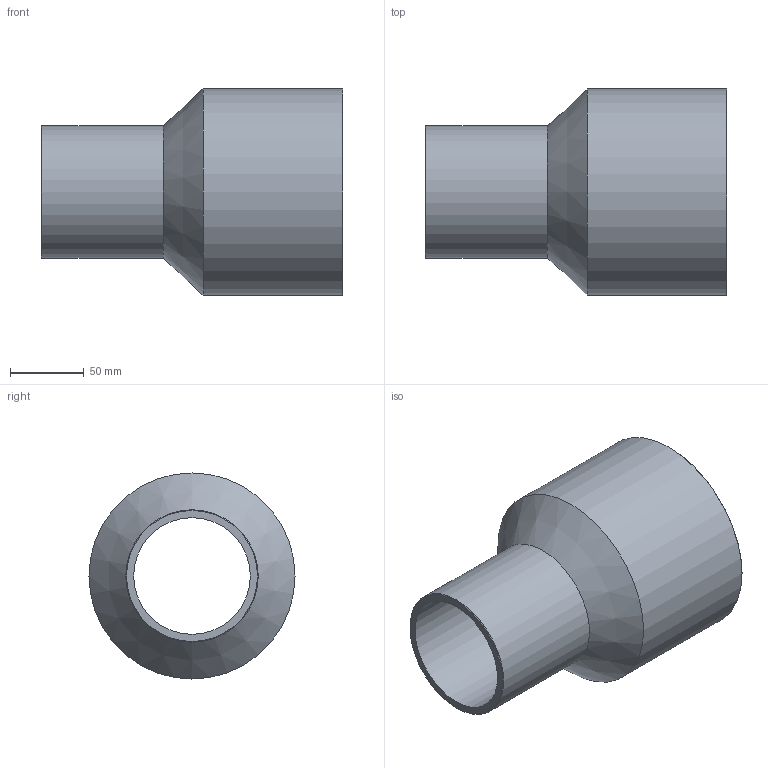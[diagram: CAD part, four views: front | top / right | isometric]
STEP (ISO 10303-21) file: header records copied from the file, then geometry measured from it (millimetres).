
FILE_DESCRIPTION(/* description */ ('Unknown'),/* implementation_level */ '2;1');
FILE_NAME(/* name */ 'RP140090B',/* time_stamp */ '2021-09-17T11:19:46+02:00',/* author */ ('Unknown'),/* organization */ ('Unknown'),/* preprocessor_version */ 'ST-DEVELOPER v16.7',/* originating_system */ 'Solid Edge',/* authorisation */ 'Unknown');
FILE_SCHEMA (('AUTOMOTIVE_DESIGN {1 0 10303 214 3 1 1}'));
Length unit declared in the file: millimetre
Products named in the file (1): RP140090B
Bounding box: 205 x 140 x 140 mm (x, y, z)
Volume: 561569.9 mm3; surface area: 150818.8 mm2
Topology: 1 solids, 1 shells, 10 faces, 19 edges, 11 vertices
Faces by surface type: cylinder 4, cone 4, plane 2
Full cylindrical faces by diameter (mm): 79.2 x1, 90 x1, 123.4 x1, 140 x1
Entity records: 238 total; most frequent: DIRECTION 42, CARTESIAN_POINT 31, AXIS2_PLACEMENT_3D 21, ORIENTED_EDGE 20, EDGE_LOOP 20, FACE_BOUND 20, EDGE_CURVE 10, VERTEX_POINT 10
